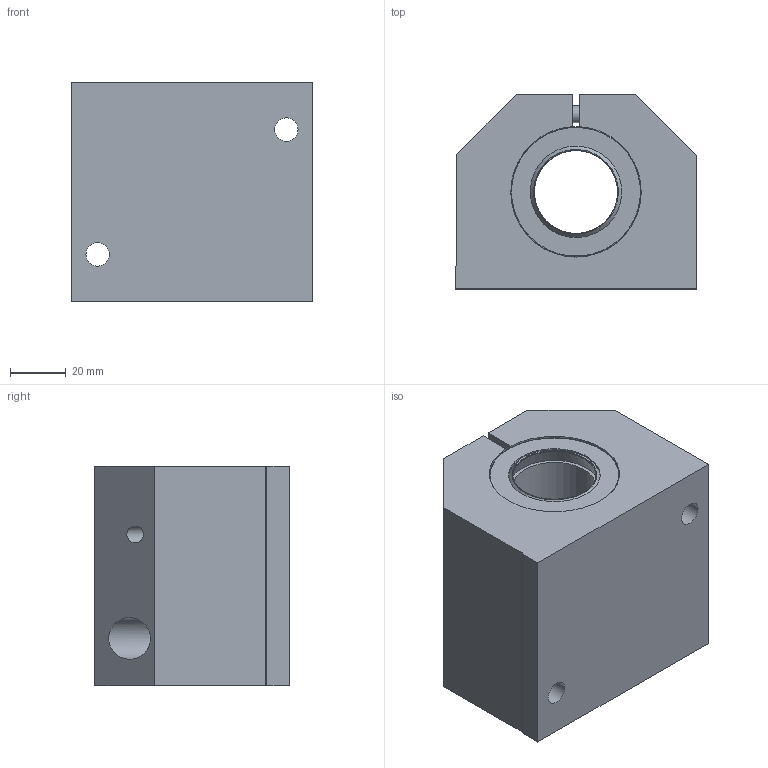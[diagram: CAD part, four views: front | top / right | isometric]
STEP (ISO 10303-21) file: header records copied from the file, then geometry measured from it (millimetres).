
FILE_DESCRIPTION(('STEP AP203'),'1');
FILE_NAME('//192.168.1.1/share/s-4 技術開発/s-4-4_CAD/s-4-4-3_見直し済み/008 修正済み/SLS(済)/SLS_TOP/SLS-30.step','2022-03-09T07:10:52',(' '),(' '),'Spatial InterOp 3D',' ',' ');
FILE_SCHEMA(('CONFIG_CONTROL_DESIGN'));
Length unit declared in the file: millimetre
Products named in the file (1): 1
Bounding box: 87 x 70 x 79 mm (x, y, z)
Volume: 364813 mm3; surface area: 52690.9 mm2
Topology: 1 solids, 1 shells, 91 faces, 208 edges, 131 vertices
Faces by surface type: plane 41, cylinder 33, cone 9, torus 8
Full cylindrical faces by diameter (mm): 6 x4, 6.6 x1, 7 x2, 8.4 x4, 10 x1, 11 x1, 15 x2, 30 x3, 33 x2, 44.5 x2
Entity records: 2328 total; most frequent: DIRECTION 414, CARTESIAN_POINT 394, ORIENTED_EDGE 304, AXIS2_PLACEMENT_3D 171, EDGE_LOOP 158, EDGE_CURVE 152, FACE_OUTER_BOUND 121, VERTEX_POINT 117
